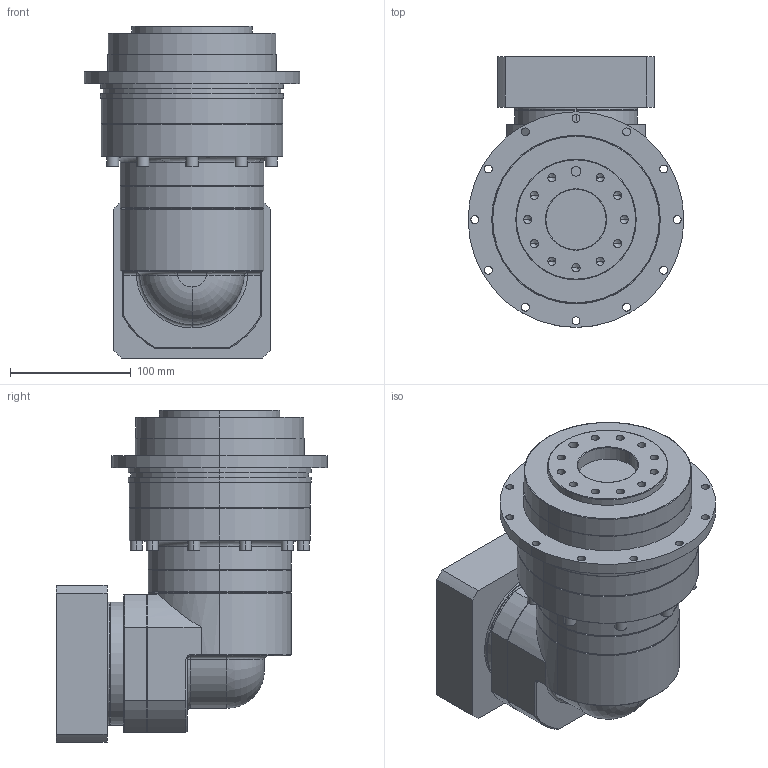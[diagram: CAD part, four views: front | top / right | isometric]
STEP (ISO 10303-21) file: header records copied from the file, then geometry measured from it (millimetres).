
FILE_DESCRIPTION (( 'STEP AP214' ), '1' );
FILE_NAME ('EVT140-L2-P1 24-110-145-M8.STEP', '2025-02-18T06:56:53', ( '微软用户' ), ( '微软中国' ), 'SwSTEP 2.0', 'SolidWorks 2021', '' );
FILE_SCHEMA (( 'AUTOMOTIVE_DESIGN' ));
Length unit declared in the file: millimetre
Products named in the file (1): EVT140-L2-P1 24-110-145-M8
Bounding box: 179 x 225 x 275.5 mm (x, y, z)
Volume: 4194368.1 mm3; surface area: 244096 mm2
Topology: 1 solids, 1 shells, 341 faces, 831 edges, 511 vertices
Faces by surface type: plane 136, cylinder 132, cone 61, torus 8, sphere 2, bspline 2
Entity records: 10566 total; most frequent: CARTESIAN_POINT 2146, DIRECTION 1790, ORIENTED_EDGE 1618, EDGE_CURVE 809, AXIS2_PLACEMENT_3D 679, VERTEX_POINT 511, LINE 432, VECTOR 432
